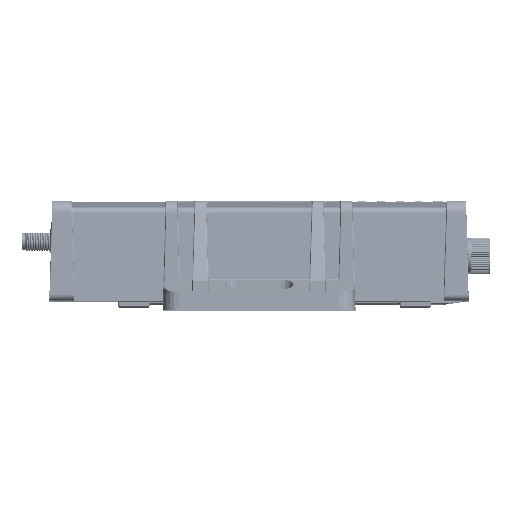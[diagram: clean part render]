
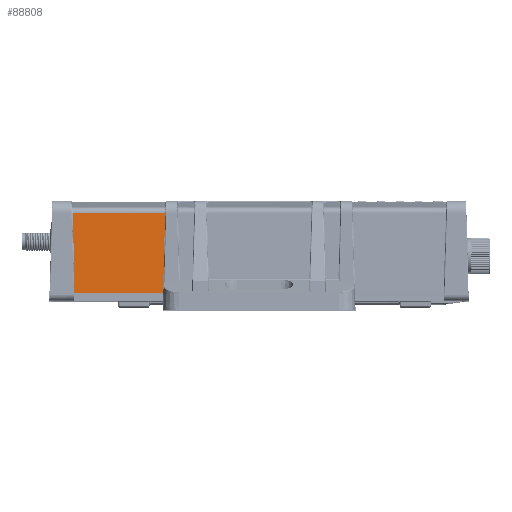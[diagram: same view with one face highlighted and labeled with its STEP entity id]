
A CAD part, top view. The second image highlights one B-rep face of the part: STEP entity #88808.
In plain terms, the highlighted planar face has unit normal (0, 0.035, 0.999).
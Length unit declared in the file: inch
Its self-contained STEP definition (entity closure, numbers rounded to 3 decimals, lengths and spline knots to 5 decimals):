
#727 = EDGE_CURVE ( 'NONE', #214703, #6646, #266209, .T. ) ;
#2655 = CARTESIAN_POINT ( 'NONE',  ( -6.56559, 0.81651, 5.68925 ) ) ;
#3635 = VERTEX_POINT ( 'NONE', #178324 ) ;
#6646 = VERTEX_POINT ( 'NONE', #13812 ) ;
#11816 = ORIENTED_EDGE ( 'NONE', *, *, #253371, .T. ) ;
#13812 = CARTESIAN_POINT ( 'NONE',  ( -5.50998, 0.81362, 5.68935 ) ) ;
#18246 = VECTOR ( 'NONE', #46770, 39.37008 ) ;
#21522 = CARTESIAN_POINT ( 'NONE',  ( -5.54095, -0.28465, 5.7277 ) ) ;
#27711 = VECTOR ( 'NONE', #117143, 39.37008 ) ;
#39199 = ORIENTED_EDGE ( 'NONE', *, *, #108466, .T. ) ;
#45015 = LINE ( 'NONE', #21522, #27711 ) ;
#46770 = DIRECTION ( 'NONE',  ( 0.026, 0.999, -0.035 ) ) ;
#51781 = VECTOR ( 'NONE', #259345, 39.37008 ) ;
#52942 = VECTOR ( 'NONE', #237808, 39.37008 ) ;
#53024 = VECTOR ( 'NONE', #226540, 39.37008 ) ;
#65123 = VERTEX_POINT ( 'NONE', #76857 ) ;
#69635 = LINE ( 'NONE', #232712, #51781 ) ;
#70744 = CARTESIAN_POINT ( 'NONE',  ( -7.75981, -0.20726, 5.725 ) ) ;
#72293 = FACE_OUTER_BOUND ( 'NONE', #222399, .T. ) ;
#73236 = CARTESIAN_POINT ( 'NONE',  ( -6.65602, -0.18964, 5.72438 ) ) ;
#76857 = CARTESIAN_POINT ( 'NONE',  ( -6.6604, 0.81362, 5.68935 ) ) ;
#83434 = EDGE_CURVE ( 'NONE', #65123, #6646, #179470, .T. ) ;
#88808 = ADVANCED_FACE ( 'NONE', ( #72293 ), #211820, .F. ) ;
#96710 = LINE ( 'NONE', #2655, #52942 ) ;
#103981 = VERTEX_POINT ( 'NONE', #143974 ) ;
#108466 = EDGE_CURVE ( 'NONE', #65123, #3635, #96710, .T. ) ;
#110472 = CARTESIAN_POINT ( 'NONE',  ( -7.75981, 0.81362, 5.68935 ) ) ;
#117143 = DIRECTION ( 'NONE',  ( 0.035, 0.999, -0.035 ) ) ;
#117796 = DIRECTION ( 'NONE',  ( 0., -0.035, -0.999 ) ) ;
#133549 = ORIENTED_EDGE ( 'NONE', *, *, #154809, .T. ) ;
#137778 = ORIENTED_EDGE ( 'NONE', *, *, #309593, .F. ) ;
#139827 = CARTESIAN_POINT ( 'NONE',  ( -5.53276, -0.05027, 5.71952 ) ) ;
#140658 = VERTEX_POINT ( 'NONE', #73236 ) ;
#140829 = CARTESIAN_POINT ( 'NONE',  ( -5.50997, 0.81382, 5.68934 ) ) ;
#143974 = CARTESIAN_POINT ( 'NONE',  ( -6.65784, 0.22687, 5.70984 ) ) ;
#154809 = EDGE_CURVE ( 'NONE', #223840, #214703, #45015, .T. ) ;
#166334 = DIRECTION ( 'NONE',  ( 1., 0., 0. ) ) ;
#170163 = CARTESIAN_POINT ( 'NONE',  ( -1.67932, -0.18964, 5.72438 ) ) ;
#174928 = ORIENTED_EDGE ( 'NONE', *, *, #205778, .F. ) ;
#178324 = CARTESIAN_POINT ( 'NONE',  ( -6.67577, 0.81315, 5.68937 ) ) ;
#179470 = LINE ( 'NONE', #110472, #53024 ) ;
#186759 = CARTESIAN_POINT ( 'NONE',  ( -5.53763, -0.18964, 5.72438 ) ) ;
#187546 = ORIENTED_EDGE ( 'NONE', *, *, #83434, .F. ) ;
#193770 = VECTOR ( 'NONE', #264670, 39.37008 ) ;
#205778 = EDGE_CURVE ( 'NONE', #223840, #140658, #240717, .T. ) ;
#211820 = PLANE ( 'NONE',  #220210 ) ;
#214491 = LINE ( 'NONE', #217623, #193770 ) ;
#214703 = VERTEX_POINT ( 'NONE', #139827 ) ;
#217623 = CARTESIAN_POINT ( 'NONE',  ( -6.6456, -0.17322, 5.72381 ) ) ;
#220210 = AXIS2_PLACEMENT_3D ( 'NONE', #70744, #117796, #166334 ) ;
#222399 = EDGE_LOOP ( 'NONE', ( #174928, #133549, #231565, #187546, #39199, #11816, #137778 ) ) ;
#223840 = VERTEX_POINT ( 'NONE', #186759 ) ;
#226540 = DIRECTION ( 'NONE',  ( 1., 0., 0. ) ) ;
#231565 = ORIENTED_EDGE ( 'NONE', *, *, #727, .T. ) ;
#232712 = CARTESIAN_POINT ( 'NONE',  ( -6.65597, -0.20245, 5.72483 ) ) ;
#237808 = DIRECTION ( 'NONE',  ( -1., -0.031, 0.001 ) ) ;
#240717 = LINE ( 'NONE', #170163, #266404 ) ;
#253371 = EDGE_CURVE ( 'NONE', #3635, #103981, #214491, .T. ) ;
#259345 = DIRECTION ( 'NONE',  ( -0.004, 0.999, -0.035 ) ) ;
#264670 = DIRECTION ( 'NONE',  ( 0.031, -0.999, 0.035 ) ) ;
#265818 = DIRECTION ( 'NONE',  ( -1., 0., 0. ) ) ;
#266209 = LINE ( 'NONE', #140829, #18246 ) ;
#266404 = VECTOR ( 'NONE', #265818, 39.37008 ) ;
#309593 = EDGE_CURVE ( 'NONE', #140658, #103981, #69635, .T. ) ;
